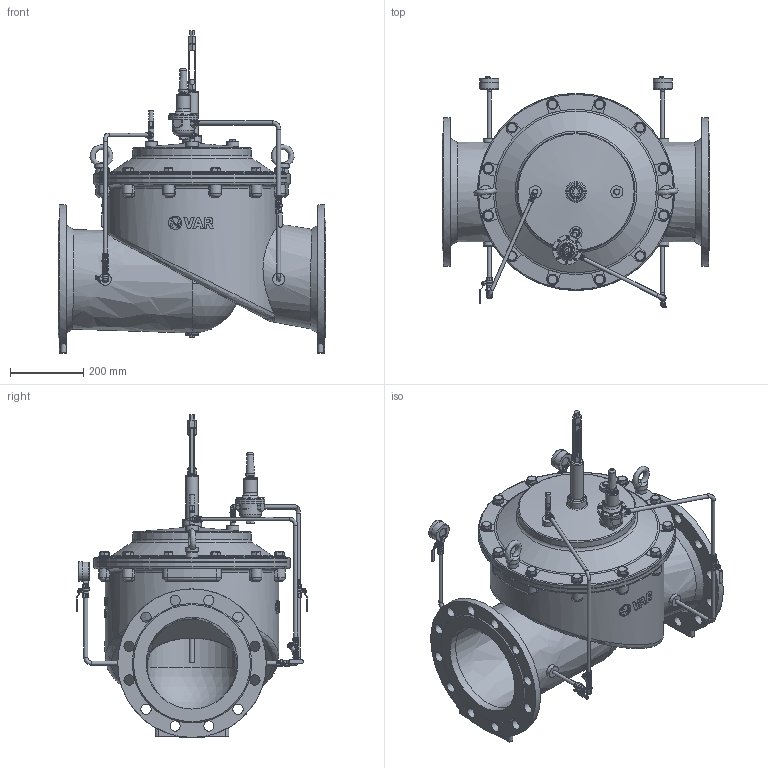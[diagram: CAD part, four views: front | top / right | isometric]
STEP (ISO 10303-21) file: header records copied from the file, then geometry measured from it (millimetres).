
FILE_DESCRIPTION(('STEP AP242'), '1');
FILE_NAME('PICO C200', '', ('UNSPECIFIED'), ('UNSPECIFIED'), 'C3D Converter', 'C3D Toolkit', '');
FILE_SCHEMA(('AP242_MANAGED_MODEL_BASED_3D_ENGINEERING_MIM_LF { 1 0 10303 442 1 1 4 }'));
Length unit declared in the file: millimetre
Products named in the file (26): М; ВР.752218.002
Assembly tree (69 placements, depth 3):
  (unnamed)
    (unnamed)
    (unnamed)
    (unnamed)
    (unnamed)
    (unnamed)
    (unnamed)
    (unnamed)
    М  x2
    (unnamed)
    (unnamed)  x4
    ВР.752218.002  x2
    (unnamed)  x6
    (unnamed)
    (unnamed)  x4
    (unnamed)
    (unnamed)
      (unnamed)
      (unnamed)
      (unnamed)  x8
      (unnamed)
    (unnamed)
    (unnamed)  x2
    (unnamed)  x2
    (unnamed)  x12
    (unnamed)  x12
Bounding box: 730 x 632 x 880.5 mm (x, y, z)
Volume: 25689481.7 mm3; surface area: 4469582.9 mm2
Topology: 75 solids, 77 shells, 3048 faces, 7635 edges, 5005 vertices
Faces by surface type: plane 1676, cylinder 681, cone 321, extrusion 151, torus 121, bspline 87, sphere 11
Full cylindrical faces by diameter (mm): 0.518 x2, 1.2 x1, 2.5 x2, 3 x8, 4 x25, 4.2 x4, 4.5 x4, 5 x2, 6 x8, 7 x8, 8 x5, 8.7 x1, 9 x16, 9.3 x6, 9.5 x2, 10 x4, 10.2 x4, 10.8 x2, 11 x18, 11.16 x4, 11.179 x6, 11.22 x4, 11.4 x2, 11.577 x2, 12 x10, 12.5 x3, 12.573 x15, 13.157 x2, 13.8 x4, 14.4 x5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
Entity records: 120098 total; most frequent: CARTESIAN_POINT 67515, ORIENTED_EDGE 8402, DIRECTION 7700, EDGE_CURVE 4201, VERTEX_POINT 3007, AXIS2_PLACEMENT_3D 2843, EDGE_LOOP 2598, FACE_BOUND 2042
